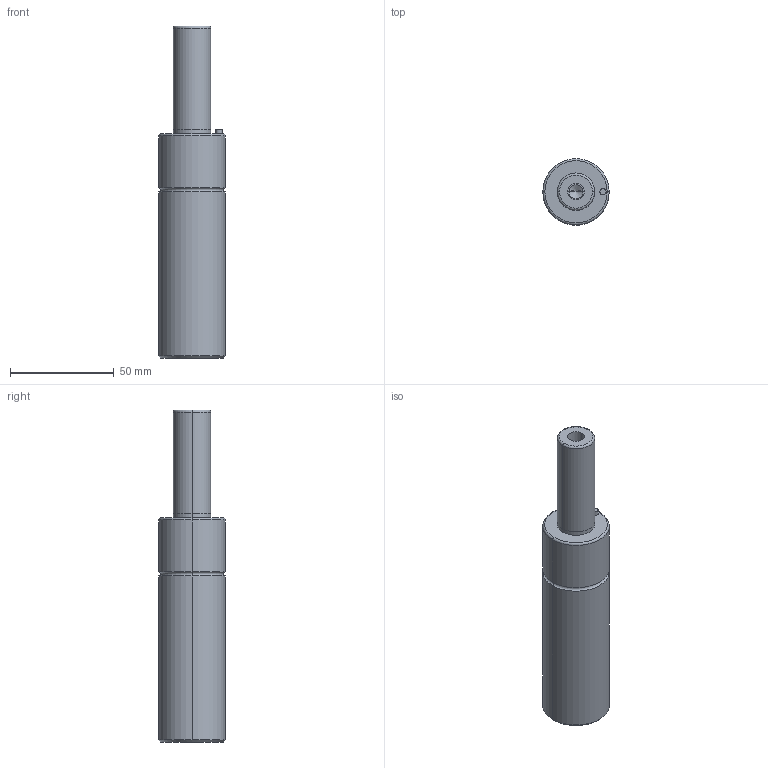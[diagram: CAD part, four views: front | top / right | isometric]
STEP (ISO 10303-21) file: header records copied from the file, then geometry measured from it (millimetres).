
FILE_DESCRIPTION(/* description */ (''),/* implementation_level */ '2;1');
FILE_NAME(/* name */ '3d_gsm32-50_03928_r00.stp',/* time_stamp */ '2011-01-10T14:15:16+09:00',/* author */ ('MISUMI'),/* organization */ (''),/* preprocessor_version */ 'ST-DEVELOPER v11',/* originating_system */ 'UGS - NX 5.0',/* authorisation */ '');
FILE_SCHEMA (('CONFIG_CONTROL_DESIGN'));
Length unit declared in the file: millimetre
Products named in the file (1): 3d_gsm32-50_03928_r00
Bounding box: 32 x 32 x 160 mm (x, y, z)
Volume: 98461.9 mm3; surface area: 16263.9 mm2
Topology: 1 solids, 1 shells, 50 faces, 106 edges, 60 vertices
Faces by surface type: cylinder 26, cone 10, plane 8, torus 6
Entity records: 1382 total; most frequent: DIRECTION 262, CARTESIAN_POINT 209, ORIENTED_EDGE 196, AXIS2_PLACEMENT_3D 113, EDGE_CURVE 98, CIRCLE 62, EDGE_LOOP 60, VERTEX_POINT 60
